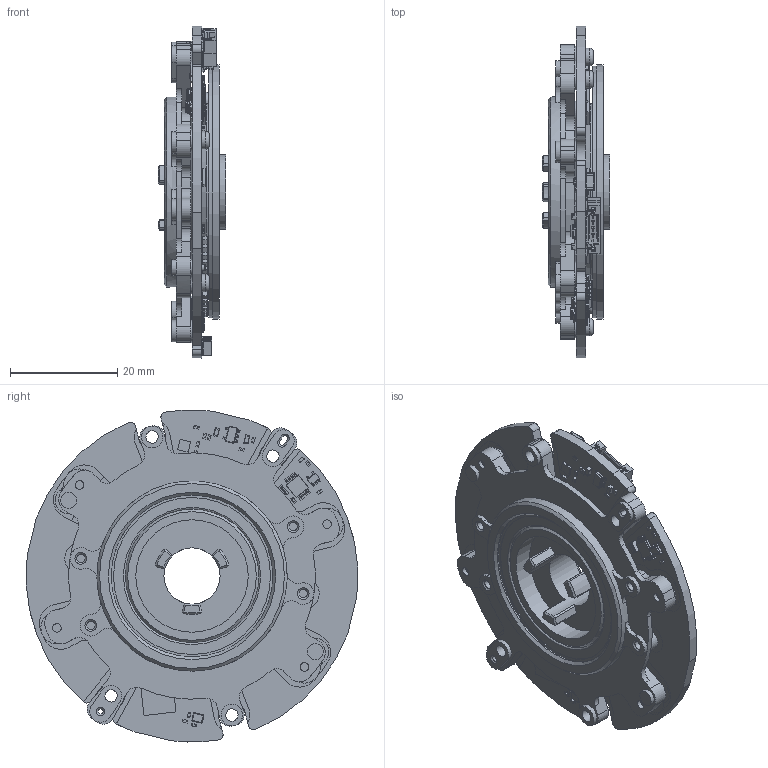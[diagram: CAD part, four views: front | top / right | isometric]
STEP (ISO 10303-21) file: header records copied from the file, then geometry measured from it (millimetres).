
FILE_DESCRIPTION(/* description */ (''),/* implementation_level */ '2;1');
FILE_NAME(/* name */ 'EAS-101 20260722.stp',/* time_stamp */ '2026-07-22T11:15:35+08:00',/* author */ (''),/* organization */ (''),/* preprocessor_version */ 'ST-DEVELOPER v20',/* originating_system */ 'SIEMENS PLM Software NX2312.1700',/* authorisation */ '');
FILE_SCHEMA (('AP203_CONFIGURATION_CONTROLLED_3D_DESIGN_OF_MECHANICAL_PARTS_AND_ASSEMBLIES_MIM_LF { 1 0 10303 403 2 1 2}'));
Products named in the file (1): EAS-100_EAS-101 20260721_objects
Bounding box: 12.6 x 61.95 x 61.98 mm (x, y, z)
Volume: 14205 mm3; surface area: 20814.7 mm2
Topology: 357 solids, 357 shells, 7209 faces, 18496 edges, 11838 vertices
Faces by surface type: plane 5250, cylinder 1523, sphere 348, cone 60, torus 24, bspline 4
Full cylindrical faces by diameter (mm): 1 x5, 1.25 x4, 1.6 x12, 2 x12, 2.192 x1, 2.2 x7, 2.3 x4, 2.5 x4, 3 x2, 3.2 x4, 3.3 x4, 4 x8, 10.5 x1, 14 x1, 20 x1, 21 x1, 25 x3, 25.2 x1, 26.4 x1, 29.3 x2, 30.2 x1, 32 x4, 33 x2, 33.5 x1, 35 x1, 35.5 x1, 47 x1, 47.5 x1
Entity records: 227709 total; most frequent: CARTESIAN_POINT 41124, ORIENTED_EDGE 36060, DIRECTION 35709, EDGE_CURVE 18030, LINE 14569, VECTOR 14569, VERTEX_POINT 11751, AXIS2_PLACEMENT_3D 10570
